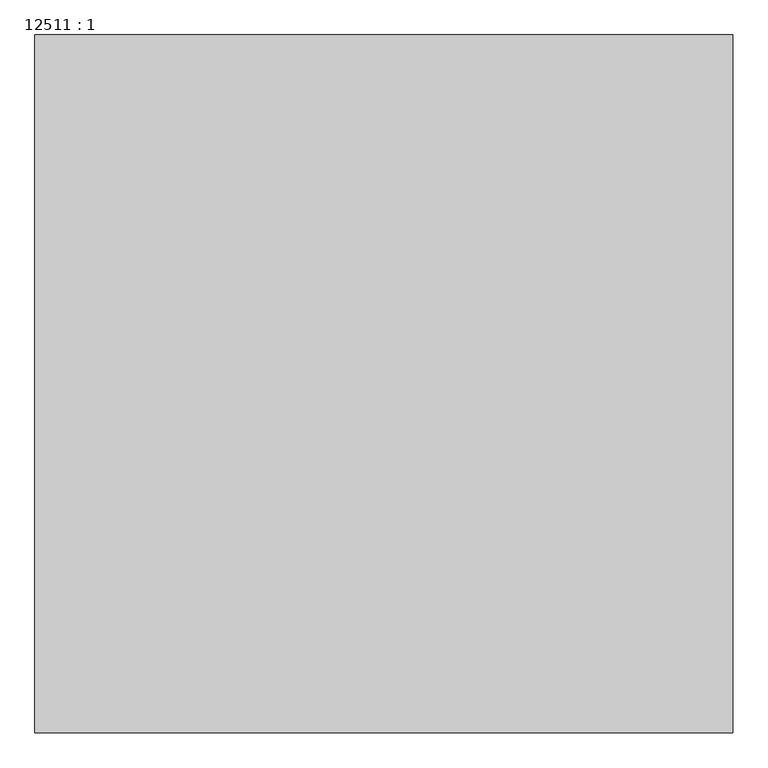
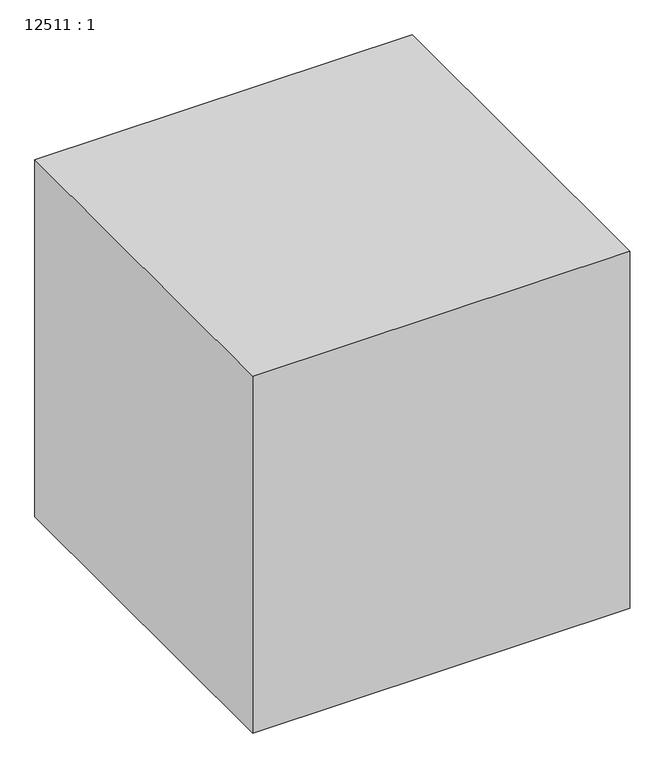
"""IFC4 building model written with IfcOpenShell, lengths in millimetres: proxy geometry, 12511 : 1."""

from ifc_helpers import new_model, si_unit, origin, origin_with_axes, place, context, project, spatial, polyline, outline, extrude, source, transform, mapped, element, save


def proxy_12511_1_5074e58f(model_context):
    return source(origin(), model_context, "Body", "SweptSolid", [
        extrude(outline(polyline([(21692.0243292, -4664.7705528), (21692.0243292, -5664.7705528), (20692.0243292, -5664.7705528), (20692.0243292, -4664.7705528), (21692.0243292, -4664.7705528)])), origin_with_axes(), (0.0, 0.0, 1.0), 1000.0),
    ])


if __name__ == "__main__":
    model = new_model("IFC4")
    model_context = context("Model", 3, world=origin())
    ifc_project = project(units=[si_unit("LENGTHUNIT", "METRE", prefix="MILLI")], contexts=[model_context])
    site = spatial("IfcSite", under=ifc_project)
    building = spatial("IfcBuilding", under=site)
    placement = place(None, origin())
    proxy_12511_1_shape = proxy_12511_1_5074e58f(model_context)
    element("IfcBuildingElementProxy", 1, Name="12511 : 1", ObjectType="12511 : 1", at=placement, inside=building, context=model_context, shape_type="MappedRepresentation", body=[
        mapped(proxy_12511_1_shape, transform((0.0, 0.0, 0.0), x_axis=(1.0, 0.0, 0.0), y_axis=(0.0, 1.0, 0.0), z_axis=(0.0, 0.0, 1.0))),
    ])
    save(model, "model.ifc")
